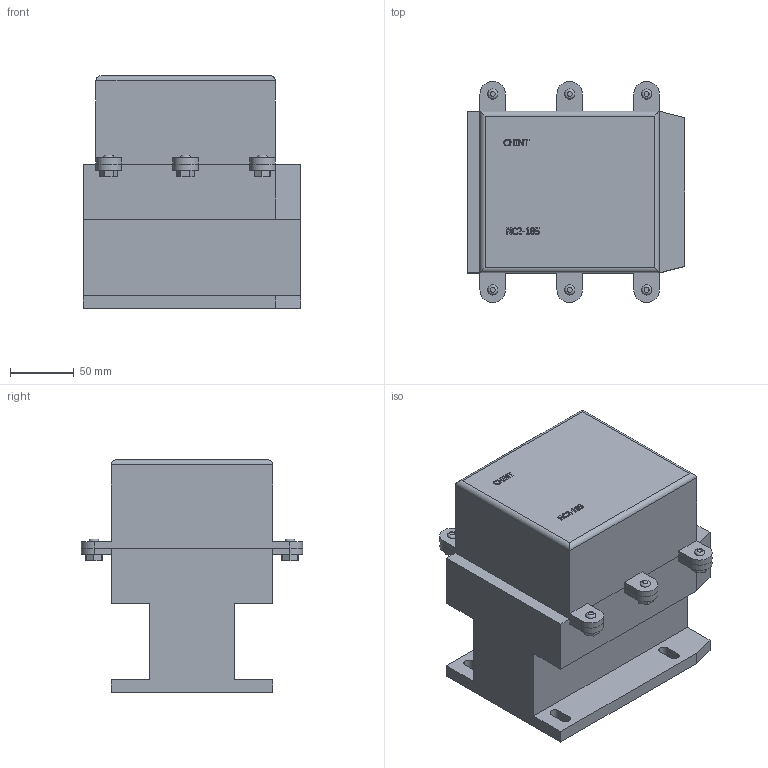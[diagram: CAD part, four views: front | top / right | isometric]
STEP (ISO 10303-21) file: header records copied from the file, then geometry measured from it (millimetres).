
FILE_DESCRIPTION(/* description */ (''),/* implementation_level */ '2;1');
FILE_NAME(/* name */ 'D:\CHINT2\NC2\NC2-185 230В 50Гц.stp',/* time_stamp */ '2017-11-12T20:48:49+03:00',/* author */ ('RSagdiev'),/* organization */ (''),/* preprocessor_version */ 'ST-DEVELOPER v16.5',/* originating_system */ 'Autodesk Inventor 2017',/* authorisation */ '');
FILE_SCHEMA (('AUTOMOTIVE_DESIGN { 1 0 10303 214 3 1 1 }'));
Length unit declared in the file: millimetre
Products named in the file (1): NC2-185 230В 50Гц
Bounding box: 171 x 174 x 183.1 mm (x, y, z)
Volume: 3110901.9 mm3; surface area: 212539.8 mm2
Topology: 14 solids, 14 shells, 333 faces, 879 edges, 588 vertices
Faces by surface type: plane 227, bspline 82, cylinder 24
Entity records: 11040 total; most frequent: CARTESIAN_POINT 3192, ORIENTED_EDGE 1758, DIRECTION 1293, EDGE_CURVE 879, LINE 653, VECTOR 653, VERTEX_POINT 588, EDGE_LOOP 355
